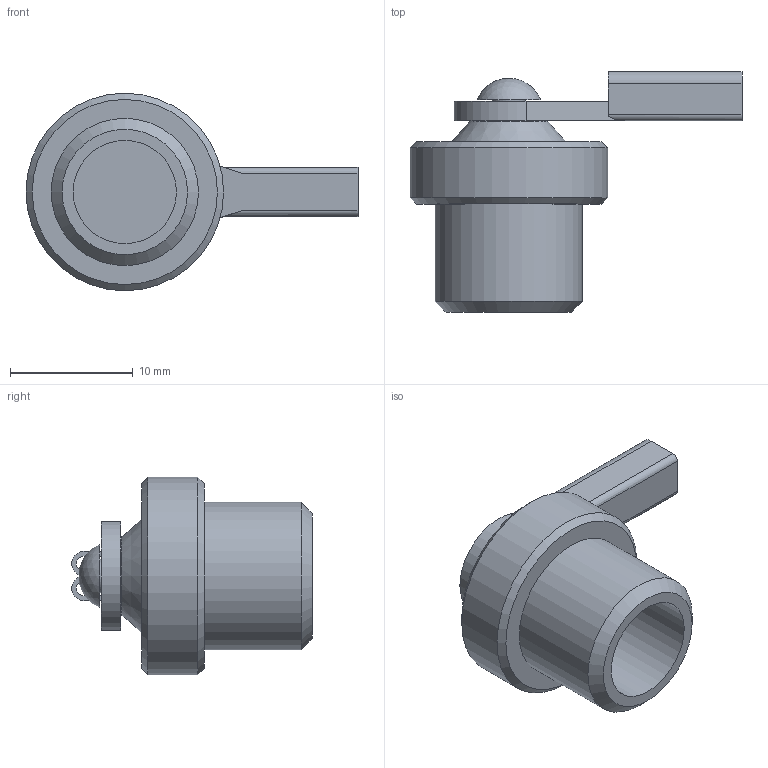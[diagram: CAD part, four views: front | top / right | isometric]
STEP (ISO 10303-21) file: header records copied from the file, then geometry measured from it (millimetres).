
FILE_DESCRIPTION((''),'2;1');
FILE_NAME('C:\TurckZip\FS-CC.stp','2009-06-12T10:06:15',('IKOROL'),(''),'Autodesk Inventor 2009','Autodesk Inventor 2009','');
FILE_SCHEMA(('CONFIG_CONTROL_DESIGN'));
Length unit declared in the file: millimetre
Products named in the file (1): Part8
Bounding box: 27.05 x 19.59 x 16.1 mm (x, y, z)
Volume: 1837.6 mm3; surface area: 1902.3 mm2
Topology: 3 solids, 3 shells, 45 faces, 98 edges, 62 vertices
Faces by surface type: plane 22, cylinder 15, cone 7, sphere 1
Full cylindrical faces by diameter (mm): 2.645 x1, 4.5 x1, 8.41 x1, 12.004 x1, 16.1 x1
Entity records: 1247 total; most frequent: DIRECTION 216, CARTESIAN_POINT 190, ORIENTED_EDGE 168, AXIS2_PLACEMENT_3D 86, EDGE_CURVE 84, EDGE_LOOP 64, VERTEX_POINT 60, FACE_OUTER_BOUND 45
